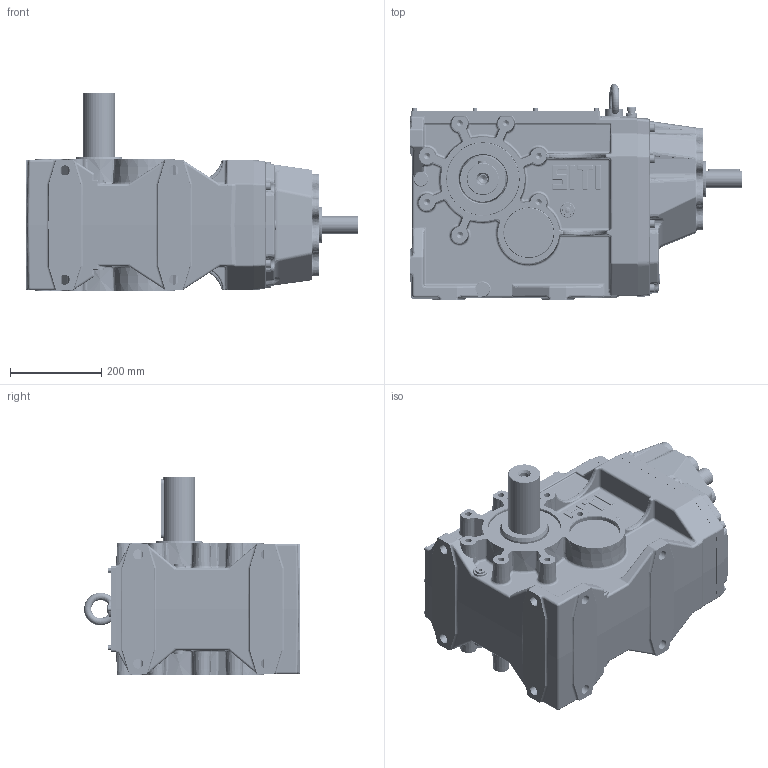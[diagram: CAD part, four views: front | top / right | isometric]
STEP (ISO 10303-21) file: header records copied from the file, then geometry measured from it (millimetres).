
FILE_DESCRIPTION((''),'2;1');
FILE_NAME('C:\Users\m.piscopiello.SITIRIDUTTORI\Desktop\3D x SITO\BH 140\BH_140 MS-B.stp','2013-05-10T12:12:59',('m.piscopiello'),(''),'Autodesk Inventor 2012','Autodesk Inventor 2012','');
FILE_SCHEMA(('CONFIG_CONTROL_DESIGN'));
Length unit declared in the file: millimetre
Products named in the file (1): BH_140 MS-B
Bounding box: 729 x 473.96 x 435 mm (x, y, z)
Volume: 19173340.3 mm3; surface area: 2653825.2 mm2
Topology: 48 solids, 50 shells, 3794 faces, 9099 edges, 5369 vertices
Faces by surface type: cylinder 1057, plane 985, bspline 897, torus 413, cone 303, sphere 139
Full cylindrical faces by diameter (mm): 3 x2, 4.917 x10, 6 x20, 6.4 x10, 6.75 x1, 7 x10, 8.4 x1, 10 x10, 10.106 x10, 12 x22, 12.5 x12, 13 x8, 13.835 x15, 14.95 x2, 16 x1, 16.6 x6, 17 x1, 17.294 x3, 17.835 x1, 18 x8, 19.5 x1, 20.5 x8, 21 x1, 22 x8, 25 x1, 26 x1, 30 x3, 38 x1, 40 x1, 70 x1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
Entity records: 149075 total; most frequent: CARTESIAN_POINT 64877, ORIENTED_EDGE 16674, DIRECTION 15935, EDGE_CURVE 8337, AXIS2_PLACEMENT_3D 6728, VERTEX_POINT 5168, EDGE_LOOP 4427, STYLED_ITEM 3841
